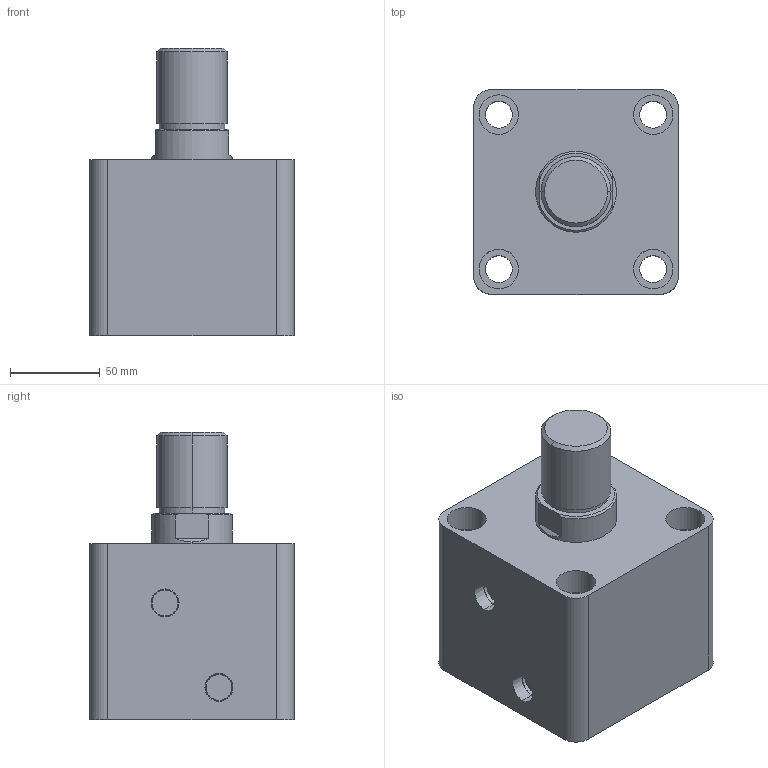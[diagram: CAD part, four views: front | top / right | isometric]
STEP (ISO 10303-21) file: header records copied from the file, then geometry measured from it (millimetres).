
FILE_DESCRIPTION (( 'STEP AP203' ), '1' );
FILE_NAME ('HTB-SD80-20W.STEP', '2019-10-07T08:14:37', ( '微软用户' ), ( '微软中国' ), 'SwSTEP 2.0', 'SolidWorks 2012', '' );
FILE_SCHEMA (( 'CONFIG_CONTROL_DESIGN' ));
Length unit declared in the file: millimetre
Products named in the file (3): HTB-SD80-20W; HTB-SD80-20W活塞杆; HTB-SD80-20掛极
Assembly tree (2 placements, depth 2):
  HTB-SD80-20W
    HTB-SD80-20掛极
    HTB-SD80-20W活塞杆
Bounding box: 114 x 114 x 160 mm (x, y, z)
Volume: 1178340.9 mm3; surface area: 146580.9 mm2
Topology: 2 solids, 2 shells, 87 faces, 190 edges, 124 vertices
Faces by surface type: cylinder 44, plane 29, cone 8, torus 6
Entity records: 2761 total; most frequent: DIRECTION 478, CARTESIAN_POINT 434, ORIENTED_EDGE 380, AXIS2_PLACEMENT_3D 204, EDGE_CURVE 190, VERTEX_POINT 124, EDGE_LOOP 112, CIRCLE 112
